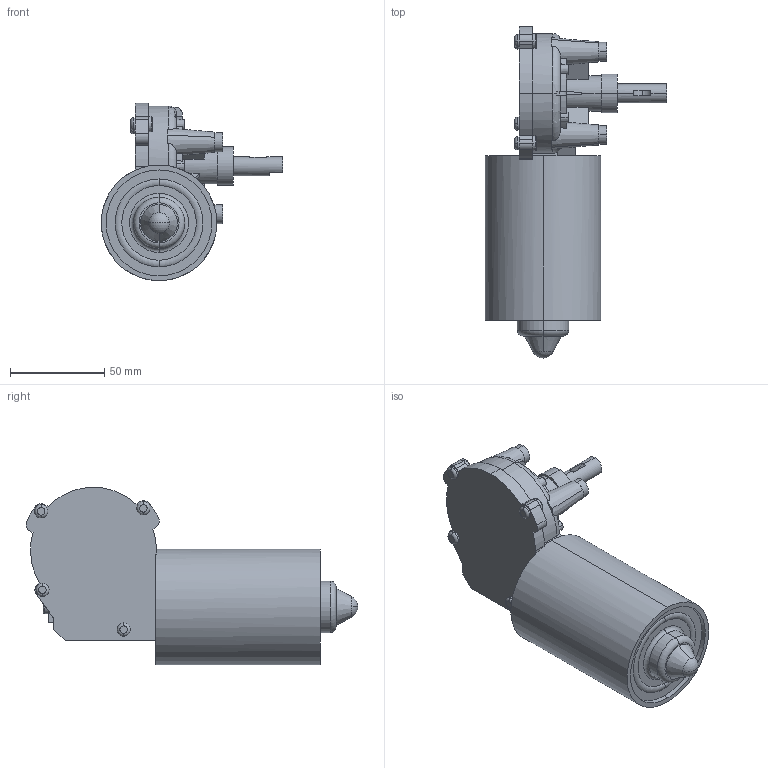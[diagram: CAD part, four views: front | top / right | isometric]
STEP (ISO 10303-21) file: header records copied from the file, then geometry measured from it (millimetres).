
FILE_DESCRIPTION (( 'STEP AP203' ), '1' );
FILE_NAME ('KTC POWER - 099 - 30W.STEP', '2026-07-14T11:02:34', ( '' ), ( '' ), 'SwSTEP 2.0', 'SolidWorks 2019', '' );
FILE_SCHEMA (( 'CONFIG_CONTROL_DESIGN' ));
Length unit declared in the file: millimetre
Products named in the file (1): KTC POWER - 099 - 30W
Bounding box: 96.1 x 175.66 x 93.9 mm (x, y, z)
Volume: 368998.2 mm3; surface area: 46131.3 mm2
Topology: 1 solids, 1 shells, 494 faces, 1309 edges, 856 vertices
Faces by surface type: plane 250, cylinder 93, bspline 79, cone 38, torus 32, sphere 2
Entity records: 20679 total; most frequent: CARTESIAN_POINT 8844, ORIENTED_EDGE 2606, DIRECTION 2231, EDGE_CURVE 1303, VERTEX_POINT 856, AXIS2_PLACEMENT_3D 807, VECTOR 617, LINE 617
